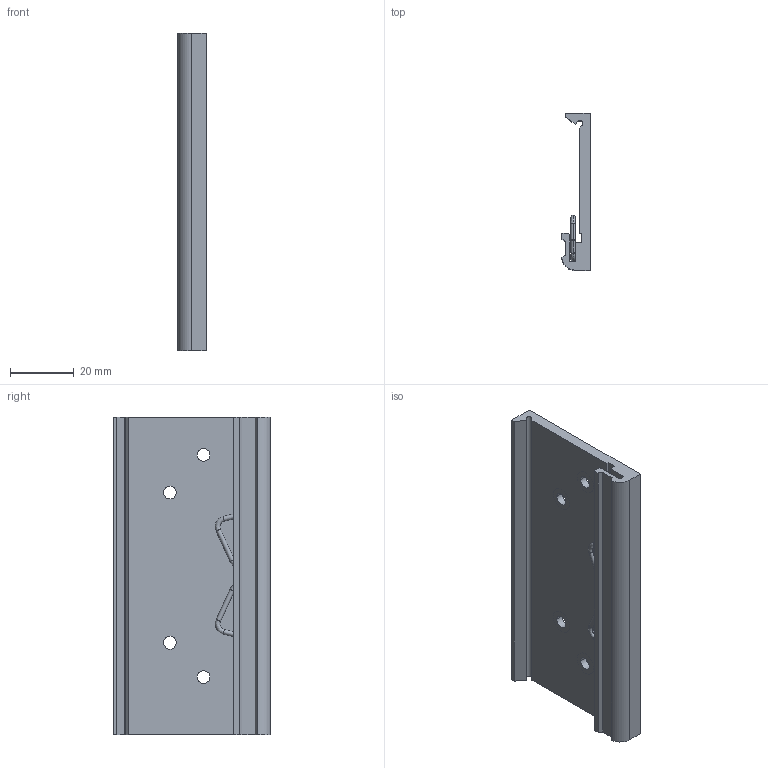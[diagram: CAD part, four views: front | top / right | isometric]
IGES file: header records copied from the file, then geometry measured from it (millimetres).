
Start section:  PTC IGES file: sc_din_railmt_crio_4s_sw0001.igs
Global section: file name: sc_din_railmt_crio_4s_sw0001.igs; native system: Pro/ENGINEER by Parametric Technology Corporation; preprocessor: 2011490; author: jbuhisan; organization: Unknown; date: 20130321.153736; units: inch
Bounding box: 8.97 x 49.33 x 100 mm (x, y, z)
Surface area: 15741.8 mm2 (no closed solid volume)
Topology: 0 solids, 0 shells, 80 faces, 368 edges, 368 vertices
Faces by surface type: revolution 49, bspline 31
